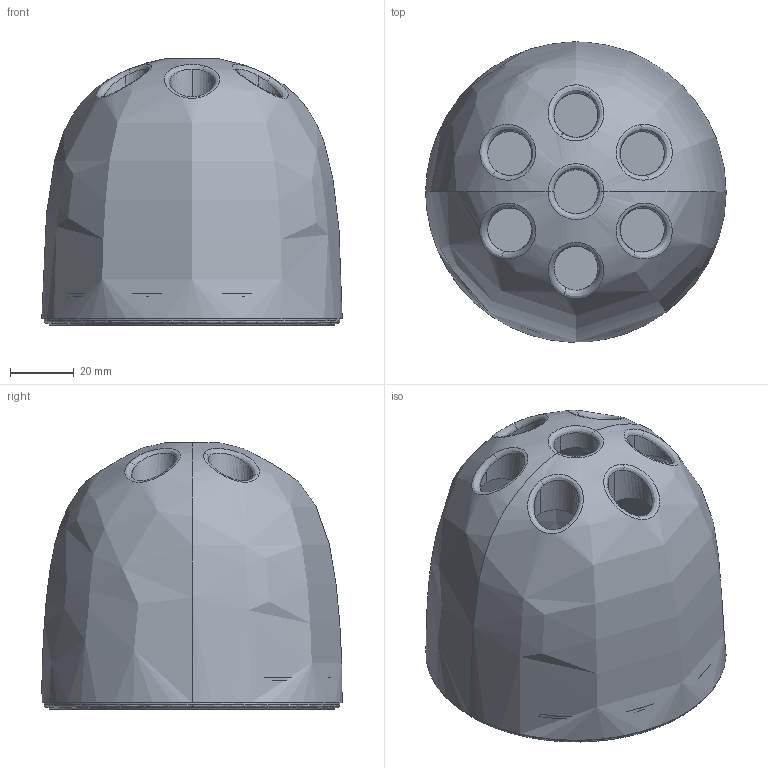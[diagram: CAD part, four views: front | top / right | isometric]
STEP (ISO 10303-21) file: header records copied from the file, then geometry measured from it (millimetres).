
FILE_DESCRIPTION(/* description */ (''),/* implementation_level */ '2;1');
FILE_NAME(/* name */ 'Dedalino',/* time_stamp */ '2025-07-10T09:10:25+02:00',/* author */ (''),/* organization */ (''),/* preprocessor_version */ 'ST-DEVELOPER v16.5',/* originating_system */ 'Rhino 7.37',/* authorisation */ '');
FILE_SCHEMA (('AUTOMOTIVE_DESIGN'));
Length unit declared in the file: millimetre
Products named in the file (1): Document
Bounding box: 94.4 x 94.33 x 83.69 mm (x, y, z)
Volume: 58398.7 mm3; surface area: 72833.4 mm2
Topology: 64 solids, 64 shells, 1372 faces, 3629 edges, 2429 vertices
Faces by surface type: plane 838, bspline 474, cylinder 60
Entity records: 55411 total; most frequent: CARTESIAN_POINT 30594, ORIENTED_EDGE 7258, EDGE_CURVE 3629, B_SPLINE_CURVE_WITH_KNOTS 3373, VERTEX_POINT 2429, EDGE_LOOP 1476, ADVANCED_FACE 1372, FACE_OUTER_BOUND 1372
